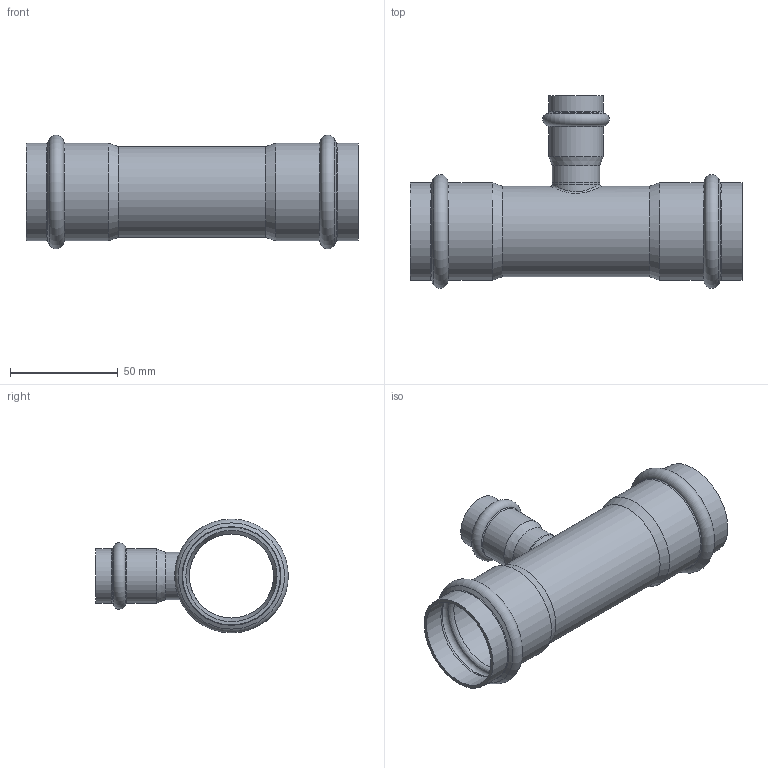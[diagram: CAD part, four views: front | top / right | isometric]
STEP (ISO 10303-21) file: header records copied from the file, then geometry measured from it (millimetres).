
FILE_DESCRIPTION((''),'2;1');
FILE_NAME('G:\Technics\CAD\Bauteile\042\69130422242(2).stp','2008-03-04T11:35:44',('herberg'),(''),'Autodesk Inventor 2008','Autodesk Inventor 2008','');
FILE_SCHEMA(('AUTOMOTIVE_DESIGN { 1 0 10303 214 1 1 1 1 }'));
Length unit declared in the file: millimetre
Products named in the file (3): 69130422242(2); LM_69130422242(2); 6924322HM(1)
Assembly tree (2 placements, depth 2):
  69130422242(2)
    LM_69130422242(2)
    6924322HM(1)
Bounding box: 154 x 89.4 x 52.8 mm (x, y, z)
Volume: 37468.3 mm3; surface area: 50667.4 mm2
Topology: 2 solids, 2 shells, 55 faces, 115 edges, 64 vertices
Faces by surface type: cylinder 18, bspline 13, cone 12, torus 7, plane 5
Full cylindrical faces by diameter (mm): 19 x2, 22 x2, 22.15 x2, 25.15 x2, 39 x1, 42 x1, 42.3 x4, 45.3 x4
Entity records: 2741 total; most frequent: CARTESIAN_POINT 1753, DIRECTION 200, ORIENTED_EDGE 116, EDGE_LOOP 110, AXIS2_PLACEMENT_3D 100, EDGE_CURVE 58, VERTEX_POINT 56, FACE_OUTER_BOUND 55
